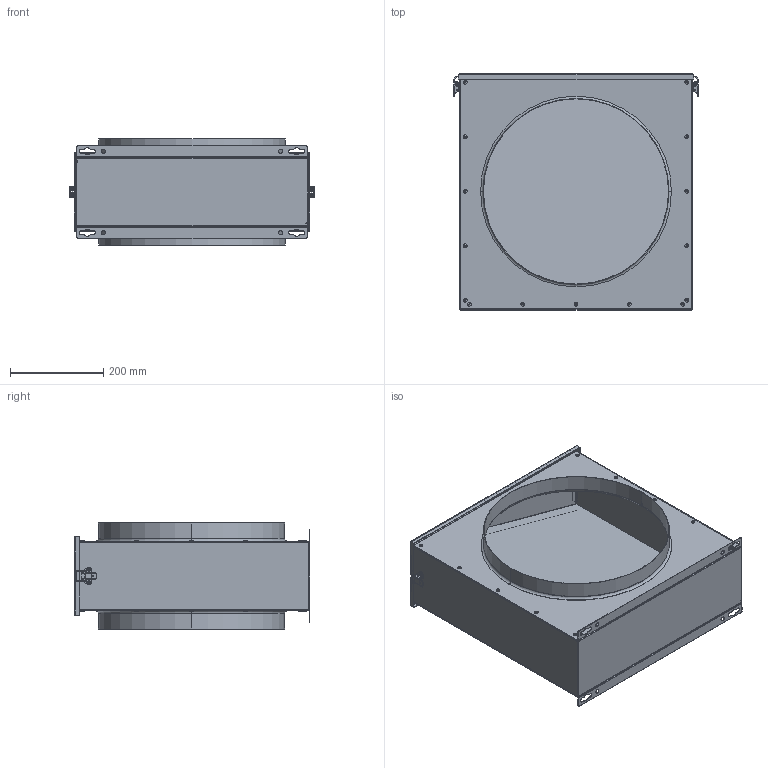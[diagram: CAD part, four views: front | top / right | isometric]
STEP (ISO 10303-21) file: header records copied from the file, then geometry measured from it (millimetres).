
FILE_DESCRIPTION (( 'STEP AP203' ), '1' );
FILE_NAME ('112836-01_FV400_step.step', '2020-08-26T10:58:10', ( '' ), ( '' ), 'SwSTEP 2.0', 'SolidWorks 2017', '' );
FILE_SCHEMA (( 'CONFIG_CONTROL_DESIGN' ));
Length unit declared in the file: millimetre
Products named in the file (1): 112836-01_FV400_step
Bounding box: 527.59 x 507 x 228 mm (x, y, z)
Surface area: 1943141 mm2 (no closed solid volume)
Topology: 0 solids, 52 shells, 492 faces, 1587 edges, 1094 vertices
Faces by surface type: cylinder 234, plane 132, torus 78, bspline 48
Entity records: 18877 total; most frequent: CARTESIAN_POINT 4522, DIRECTION 3299, ORIENTED_EDGE 2504, EDGE_CURVE 1587, AXIS2_PLACEMENT_3D 1323, VERTEX_POINT 1094, CIRCLE 878, LINE 653
